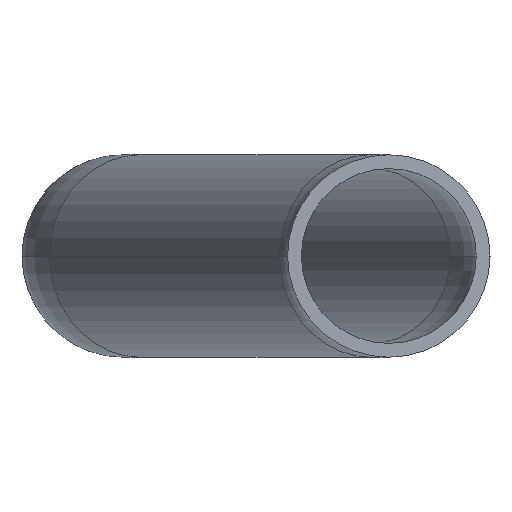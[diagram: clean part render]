
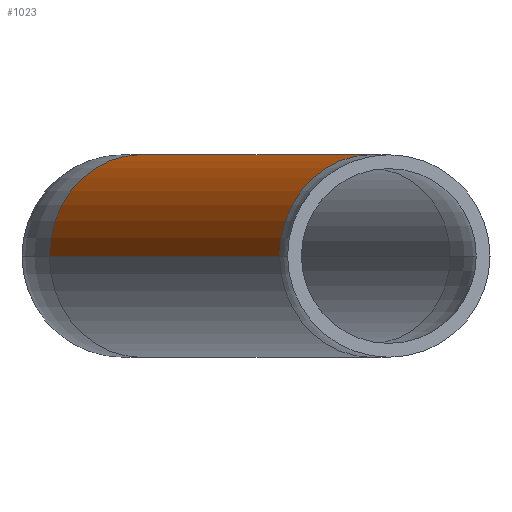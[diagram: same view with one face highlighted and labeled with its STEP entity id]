
A CAD part, left-side view. The second image highlights one B-rep face of the part: STEP entity #1023.
In plain terms, the highlighted cylindrical face has radius 11 mm (diameter 22 mm), a partial arc.
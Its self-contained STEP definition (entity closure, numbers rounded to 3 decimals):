
#14 = EDGE_CURVE ( 'NONE', #109, #809, #228, .T. ) ;
#27 = ORIENTED_EDGE ( 'NONE', *, *, #1006, .F. ) ;
#44 = DIRECTION ( 'NONE',  ( 0.428, -0.904, 0. ) ) ;
#55 = CARTESIAN_POINT ( 'NONE',  ( -61.445, 1.922, 0. ) ) ;
#69 = CARTESIAN_POINT ( 'NONE',  ( -61.445, 1.922, 0. ) ) ;
#90 = CARTESIAN_POINT ( 'NONE',  ( -13.26, 36.894, 0. ) ) ;
#101 = AXIS2_PLACEMENT_3D ( 'NONE', #55, #255, #342 ) ;
#109 = VERTEX_POINT ( 'NONE', #1119 ) ;
#134 = CARTESIAN_POINT ( 'NONE',  ( -56.74, -8.021, 0. ) ) ;
#169 = CARTESIAN_POINT ( 'NONE',  ( -66.15, 11.865, 0. ) ) ;
#176 = DIRECTION ( 'NONE',  ( -0.904, -0.428, 0. ) ) ;
#217 = VECTOR ( 'NONE', #828, 1000. ) ;
#228 = CIRCLE ( 'NONE', #607, 11. ) ;
#255 = DIRECTION ( 'NONE',  ( -0.904, -0.428, 0. ) ) ;
#274 = VERTEX_POINT ( 'NONE', #1131 ) ;
#318 = DIRECTION ( 'NONE',  ( 0.904, 0.428, 0. ) ) ;
#342 = DIRECTION ( 'NONE',  ( 0.428, -0.904, 0. ) ) ;
#369 = VERTEX_POINT ( 'NONE', #1155 ) ;
#391 = AXIS2_PLACEMENT_3D ( 'NONE', #69, #458, #759 ) ;
#404 = CIRCLE ( 'NONE', #101, 11. ) ;
#424 = LINE ( 'NONE', #134, #777 ) ;
#436 = ORIENTED_EDGE ( 'NONE', *, *, #14, .T. ) ;
#440 = LINE ( 'NONE', #169, #217 ) ;
#458 = DIRECTION ( 'NONE',  ( 0.904, 0.428, 0. ) ) ;
#540 = ORIENTED_EDGE ( 'NONE', *, *, #598, .T. ) ;
#598 = EDGE_CURVE ( 'NONE', #274, #109, #424, .T. ) ;
#607 = AXIS2_PLACEMENT_3D ( 'NONE', #1123, #176, #44 ) ;
#759 = DIRECTION ( 'NONE',  ( -0.428, 0.904, 0. ) ) ;
#777 = VECTOR ( 'NONE', #318, 1000. ) ;
#809 = VERTEX_POINT ( 'NONE', #90 ) ;
#828 = DIRECTION ( 'NONE',  ( 0.904, 0.428, 0. ) ) ;
#950 = FACE_OUTER_BOUND ( 'NONE', #1135, .T. ) ;
#959 = CYLINDRICAL_SURFACE ( 'NONE', #391, 11. ) ;
#1006 = EDGE_CURVE ( 'NONE', #369, #809, #440, .T. ) ;
#1023 = ADVANCED_FACE ( 'NONE', ( #950 ), #959, .T. ) ;
#1119 = CARTESIAN_POINT ( 'NONE',  ( -3.85, 17.009, 0. ) ) ;
#1123 = CARTESIAN_POINT ( 'NONE',  ( -8.555, 26.951, 0. ) ) ;
#1131 = CARTESIAN_POINT ( 'NONE',  ( -56.74, -8.021, 0. ) ) ;
#1135 = EDGE_LOOP ( 'NONE', ( #1176, #540, #436, #27 ) ) ;
#1155 = CARTESIAN_POINT ( 'NONE',  ( -66.15, 11.865, 0. ) ) ;
#1176 = ORIENTED_EDGE ( 'NONE', *, *, #1263, .F. ) ;
#1263 = EDGE_CURVE ( 'NONE', #274, #369, #404, .T. ) ;
